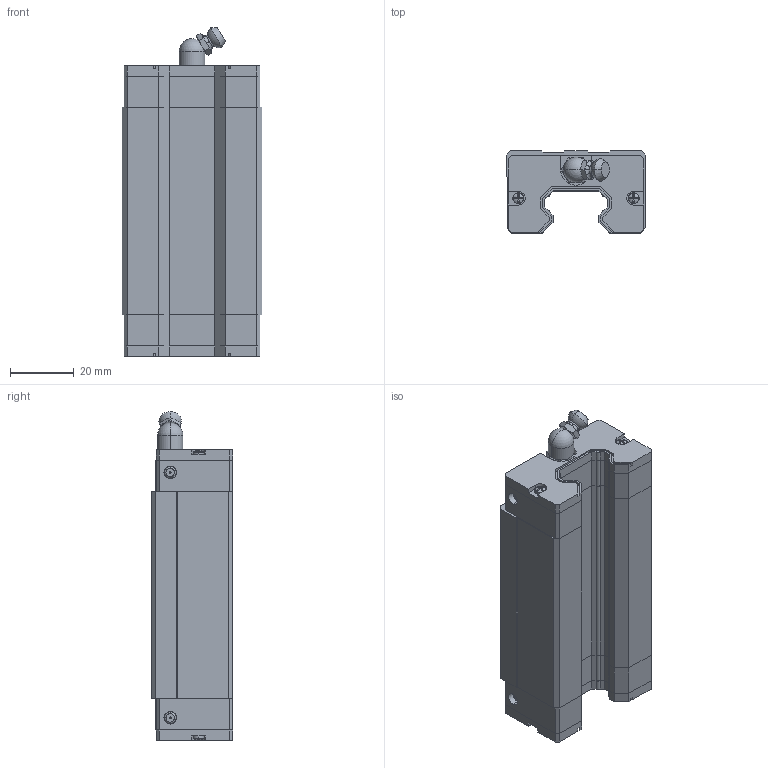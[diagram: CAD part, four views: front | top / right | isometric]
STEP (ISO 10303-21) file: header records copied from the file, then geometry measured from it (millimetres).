
FILE_DESCRIPTION (( 'STEP AP203' ), '1' );
FILE_NAME ('复件 GHH20HA1R100Z0CI_1_GHH20HA^HGH20HA.STEP', '2021-10-25T03:52:54', ( '微软用户' ), ( '微软中国' ), 'SwSTEP 2.0', 'SolidWorks 2018', '' );
FILE_SCHEMA (( 'CONFIG_CONTROL_DESIGN' ));
Length unit declared in the file: millimetre
Products named in the file (1): 葩璃 GHH20HA1R100Z0CI_1_GHH20HA^HGH20HA
Bounding box: 44 x 25.7 x 103.4 mm (x, y, z)
Volume: 78272.6 mm3; surface area: 24444.7 mm2
Topology: 5 solids, 5 shells, 450 faces, 1192 edges, 770 vertices
Faces by surface type: plane 298, cylinder 86, cone 31, torus 25, sphere 10
Entity records: 14260 total; most frequent: CARTESIAN_POINT 2859, DIRECTION 2367, ORIENTED_EDGE 2362, EDGE_CURVE 1181, VECTOR 825, LINE 825, AXIS2_PLACEMENT_3D 771, VERTEX_POINT 769
